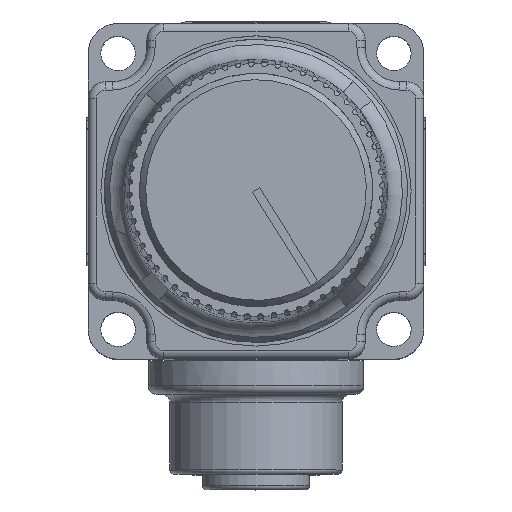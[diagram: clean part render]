
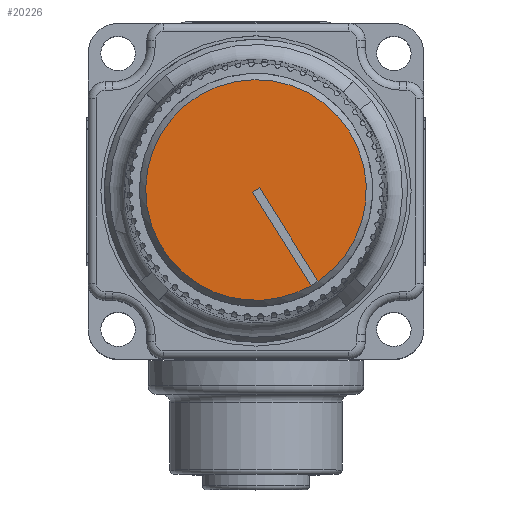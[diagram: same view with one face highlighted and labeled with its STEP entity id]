
A CAD part, top view. The second image highlights one B-rep face of the part: STEP entity #20226.
In plain terms, the highlighted planar face has unit normal (0, 0, 1).
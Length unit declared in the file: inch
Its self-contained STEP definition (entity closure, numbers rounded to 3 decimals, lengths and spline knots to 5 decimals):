
#2171=LINE('',#39318,#3579);
#2176=LINE('',#39337,#3584);
#2179=LINE('',#39342,#3587);
#3579=VECTOR('',#26919,0.3937);
#3584=VECTOR('',#26930,0.3937);
#3587=VECTOR('',#26935,0.3937);
#4910=FACE_OUTER_BOUND('',#6115,.T.);
#6115=EDGE_LOOP('',(#16422,#16423,#16424,#16425,#16426));
#7002=CIRCLE('',#22128,0.4);
#7003=CIRCLE('',#22129,0.4);
#8735=VERTEX_POINT('',#39316);
#8736=VERTEX_POINT('',#39317);
#8739=VERTEX_POINT('',#39330);
#8741=VERTEX_POINT('',#39336);
#8743=VERTEX_POINT('',#39346);
#11342=EDGE_CURVE('',#8735,#8736,#2171,.T.);
#11349=EDGE_CURVE('',#8741,#8739,#2176,.T.);
#11352=EDGE_CURVE('',#8736,#8741,#2179,.T.);
#11354=EDGE_CURVE('',#8739,#8743,#7002,.T.);
#11355=EDGE_CURVE('',#8743,#8735,#7003,.T.);
#16422=ORIENTED_EDGE('',*,*,#11349,.T.);
#16423=ORIENTED_EDGE('',*,*,#11354,.T.);
#16424=ORIENTED_EDGE('',*,*,#11355,.T.);
#16425=ORIENTED_EDGE('',*,*,#11342,.T.);
#16426=ORIENTED_EDGE('',*,*,#11352,.T.);
#18147=PLANE('',#22132);
#20226=ADVANCED_FACE('',(#4910),#18147,.T.);
#22128=AXIS2_PLACEMENT_3D('',#39347,#26941,#26942);
#22129=AXIS2_PLACEMENT_3D('',#39348,#26943,#26944);
#22132=AXIS2_PLACEMENT_3D('',#39354,#26950,#26951);
#26919=DIRECTION('',(-0.532,0.847,0.));
#26930=DIRECTION('',(0.532,-0.847,0.));
#26935=DIRECTION('',(0.847,0.532,0.));
#26941=DIRECTION('center_axis',(0.,0.,1.));
#26942=DIRECTION('ref_axis',(0.847,0.532,0.));
#26943=DIRECTION('center_axis',(0.,0.,1.));
#26944=DIRECTION('ref_axis',(0.847,0.532,0.));
#26950=DIRECTION('center_axis',(0.,0.,1.));
#26951=DIRECTION('ref_axis',(1.,0.,0.));
#39316=CARTESIAN_POINT('',(-0.07314,-0.40952,1.8705));
#39317=CARTESIAN_POINT('',(-0.28563,-0.07095,1.8705));
#39318=CARTESIAN_POINT('',(-0.07314,-0.40952,1.8705));
#39330=CARTESIAN_POINT('',(-0.04773,-0.39357,1.8705));
#39336=CARTESIAN_POINT('',(-0.26022,-0.05501,1.8705));
#39337=CARTESIAN_POINT('',(-0.26022,-0.05501,1.8705));
#39342=CARTESIAN_POINT('',(-0.28563,-0.07095,1.8705));
#39346=CARTESIAN_POINT('',(-0.42508,-0.43291,1.8705));
#39347=CARTESIAN_POINT('Origin',(-0.27292,-0.06298,
1.8705));
#39348=CARTESIAN_POINT('Origin',(-0.27292,-0.06298,
1.8705));
#39354=CARTESIAN_POINT('Origin',(-0.62169,-0.27882,1.8705));
